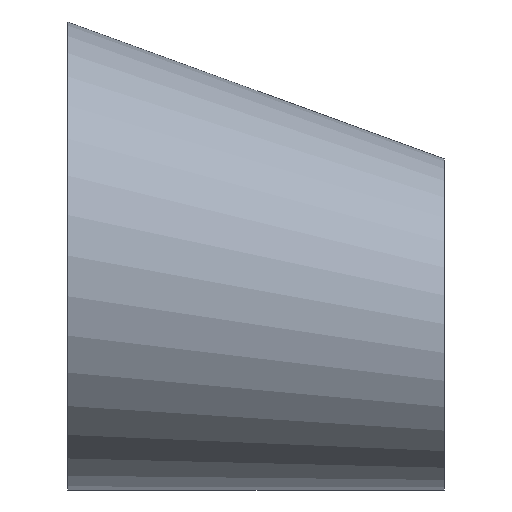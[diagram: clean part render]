
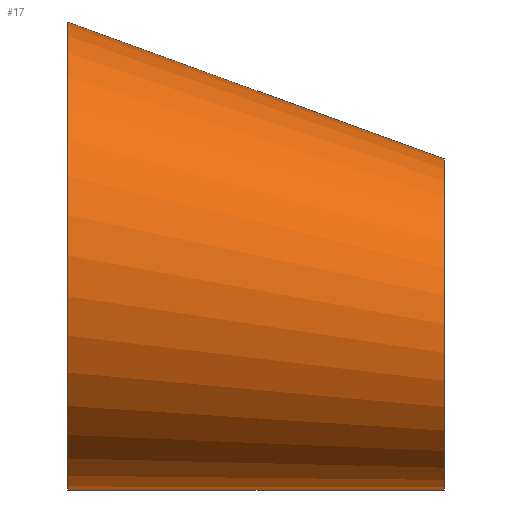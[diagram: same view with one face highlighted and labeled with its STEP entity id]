
A CAD part, top view. The second image highlights one B-rep face of the part: STEP entity #17.
In plain terms, the highlighted free-form (B-spline) face has degree [14, 1] with [15, 2] control points.
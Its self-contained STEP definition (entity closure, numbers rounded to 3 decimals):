
#17 = ADVANCED_FACE('',(#18),#31,.T.);
#18 = FACE_BOUND('',#19,.T.);
#19 = EDGE_LOOP('',(#20,#80,#102,#129));
#20 = ORIENTED_EDGE('',*,*,#21,.T.);
#21 = EDGE_CURVE('',#22,#22,#24,.T.);
#22 = VERTEX_POINT('',#23);
#23 = CARTESIAN_POINT('',(0.,20.5,0.));
#24 = SURFACE_CURVE('',#25,(#30,#68),.PCURVE_S1.);
#25 = CIRCLE('',#26,20.5);
#26 = AXIS2_PLACEMENT_3D('',#27,#28,#29);
#27 = CARTESIAN_POINT('',(0.,0.,0.));
#28 = DIRECTION('',(1.,0.,0.));
#29 = DIRECTION('',(0.,1.,0.));
#30 = PCURVE('',#31,#62);
#31 = B_SPLINE_SURFACE_WITH_KNOTS('',14,1,(
    (#32,#33)
    ,(#34,#35)
    ,(#36,#37)
    ,(#38,#39)
    ,(#40,#41)
    ,(#42,#43)
    ,(#44,#45)
    ,(#46,#47)
    ,(#48,#49)
    ,(#50,#51)
    ,(#52,#53)
    ,(#54,#55)
    ,(#56,#57)
    ,(#58,#59)
    ,(#60,#61
    )),.UNSPECIFIED.,.T.,.F.,.F.,(15,15),(2,2),(0.,6.283),(0.,1.
    ),.PIECEWISE_BEZIER_KNOTS.);
#32 = CARTESIAN_POINT('',(0.,20.5,0.));
#33 = CARTESIAN_POINT('',(33.,8.5,0.));
#34 = CARTESIAN_POINT('',(0.,20.5,9.2));
#35 = CARTESIAN_POINT('',(33.,8.5,6.508)
  );
#36 = CARTESIAN_POINT('',(0.,16.053,18.401));
#37 = CARTESIAN_POINT('',(33.,5.355,13.015
    ));
#38 = CARTESIAN_POINT('',(0.,7.16,25.273));
#39 = CARTESIAN_POINT('',(33.,-0.936,17.876
    ));
#40 = CARTESIAN_POINT('',(0.,-4.851,27.488));
#41 = CARTESIAN_POINT('',(33.,-9.431,
    19.443));
#42 = CARTESIAN_POINT('',(0.,-17.318,23.554));
#43 = CARTESIAN_POINT('',(33.,-18.249,16.66
    ));
#44 = CARTESIAN_POINT('',(0.,-26.835,13.651));
#45 = CARTESIAN_POINT('',(33.,-24.981,9.655
    ));
#46 = CARTESIAN_POINT('',(0.,-30.418,0.));
#47 = CARTESIAN_POINT('',(33.,-27.516,
    0.));
#48 = CARTESIAN_POINT('',(0.,-26.835,-13.651));
#49 = CARTESIAN_POINT('',(33.,-24.981,-9.655)
  );
#50 = CARTESIAN_POINT('',(0.,-17.318,-23.554));
#51 = CARTESIAN_POINT('',(33.,-18.249,
    -16.66));
#52 = CARTESIAN_POINT('',(0.,-4.851,-27.488));
#53 = CARTESIAN_POINT('',(33.,-9.431,-19.443
    ));
#54 = CARTESIAN_POINT('',(0.,7.16,-25.273));
#55 = CARTESIAN_POINT('',(33.,-0.936,
    -17.876));
#56 = CARTESIAN_POINT('',(0.,16.053,-18.401));
#57 = CARTESIAN_POINT('',(33.,5.355,-13.015
    ));
#58 = CARTESIAN_POINT('',(0.,20.5,-9.2));
#59 = CARTESIAN_POINT('',(33.,8.5,-6.508));
#60 = CARTESIAN_POINT('',(0.,20.5,0.));
#61 = CARTESIAN_POINT('',(33.,8.5,0.));
#62 = DEFINITIONAL_REPRESENTATION('',(#63),#67);
#63 = LINE('',#64,#65);
#64 = CARTESIAN_POINT('',(0.,0.));
#65 = VECTOR('',#66,1.);
#66 = DIRECTION('',(1.,0.));
#67 = ( GEOMETRIC_REPRESENTATION_CONTEXT(2) 
PARAMETRIC_REPRESENTATION_CONTEXT() REPRESENTATION_CONTEXT('2D SPACE',''
  ) );
#68 = PCURVE('',#69,#74);
#69 = PLANE('',#70);
#70 = AXIS2_PLACEMENT_3D('',#71,#72,#73);
#71 = CARTESIAN_POINT('',(0.,0.,0.));
#72 = DIRECTION('',(1.,0.,0.));
#73 = DIRECTION('',(0.,1.,0.));
#74 = DEFINITIONAL_REPRESENTATION('',(#75),#79);
#75 = CIRCLE('',#76,20.5);
#76 = AXIS2_PLACEMENT_2D('',#77,#78);
#77 = CARTESIAN_POINT('',(0.,0.));
#78 = DIRECTION('',(1.,0.));
#79 = ( GEOMETRIC_REPRESENTATION_CONTEXT(2) 
PARAMETRIC_REPRESENTATION_CONTEXT() REPRESENTATION_CONTEXT('2D SPACE',''
  ) );
#80 = ORIENTED_EDGE('',*,*,#81,.T.);
#81 = EDGE_CURVE('',#22,#82,#84,.T.);
#82 = VERTEX_POINT('',#83);
#83 = CARTESIAN_POINT('',(33.,8.5,0.));
#84 = SEAM_CURVE('',#85,(#88,#95),.PCURVE_S1.);
#85 = B_SPLINE_CURVE_WITH_KNOTS('',1,(#86,#87),.UNSPECIFIED.,.F.,.F.,(2,
    2),(0.,1.),.PIECEWISE_BEZIER_KNOTS.);
#86 = CARTESIAN_POINT('',(0.,20.5,0.));
#87 = CARTESIAN_POINT('',(33.,8.5,0.));
#88 = PCURVE('',#31,#89);
#89 = DEFINITIONAL_REPRESENTATION('',(#90),#94);
#90 = LINE('',#91,#92);
#91 = CARTESIAN_POINT('',(6.283,0.));
#92 = VECTOR('',#93,1.);
#93 = DIRECTION('',(0.,1.));
#94 = ( GEOMETRIC_REPRESENTATION_CONTEXT(2) 
PARAMETRIC_REPRESENTATION_CONTEXT() REPRESENTATION_CONTEXT('2D SPACE',''
  ) );
#95 = PCURVE('',#31,#96);
#96 = DEFINITIONAL_REPRESENTATION('',(#97),#101);
#97 = LINE('',#98,#99);
#98 = CARTESIAN_POINT('',(0.,0.));
#99 = VECTOR('',#100,1.);
#100 = DIRECTION('',(0.,1.));
#101 = ( GEOMETRIC_REPRESENTATION_CONTEXT(2) 
PARAMETRIC_REPRESENTATION_CONTEXT() REPRESENTATION_CONTEXT('2D SPACE',''
  ) );
#102 = ORIENTED_EDGE('',*,*,#103,.F.);
#103 = EDGE_CURVE('',#82,#82,#104,.T.);
#104 = SURFACE_CURVE('',#105,(#110,#117),.PCURVE_S1.);
#105 = CIRCLE('',#106,14.5);
#106 = AXIS2_PLACEMENT_3D('',#107,#108,#109);
#107 = CARTESIAN_POINT('',(33.,-6.,0.));
#108 = DIRECTION('',(1.,0.,0.));
#109 = DIRECTION('',(0.,1.,0.));
#110 = PCURVE('',#31,#111);
#111 = DEFINITIONAL_REPRESENTATION('',(#112),#116);
#112 = LINE('',#113,#114);
#113 = CARTESIAN_POINT('',(0.,1.));
#114 = VECTOR('',#115,1.);
#115 = DIRECTION('',(1.,0.));
#116 = ( GEOMETRIC_REPRESENTATION_CONTEXT(2) 
PARAMETRIC_REPRESENTATION_CONTEXT() REPRESENTATION_CONTEXT('2D SPACE',''
  ) );
#117 = PCURVE('',#118,#123);
#118 = PLANE('',#119);
#119 = AXIS2_PLACEMENT_3D('',#120,#121,#122);
#120 = CARTESIAN_POINT('',(33.,-6.,0.));
#121 = DIRECTION('',(1.,0.,0.));
#122 = DIRECTION('',(0.,1.,0.));
#123 = DEFINITIONAL_REPRESENTATION('',(#124),#128);
#124 = CIRCLE('',#125,14.5);
#125 = AXIS2_PLACEMENT_2D('',#126,#127);
#126 = CARTESIAN_POINT('',(0.,0.));
#127 = DIRECTION('',(1.,0.));
#128 = ( GEOMETRIC_REPRESENTATION_CONTEXT(2) 
PARAMETRIC_REPRESENTATION_CONTEXT() REPRESENTATION_CONTEXT('2D SPACE',''
  ) );
#129 = ORIENTED_EDGE('',*,*,#81,.F.);
